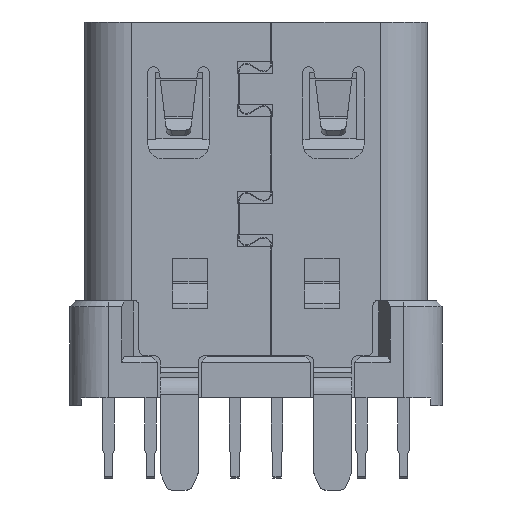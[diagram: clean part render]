
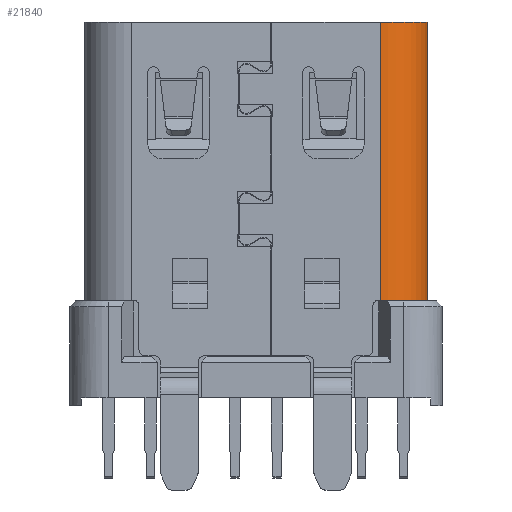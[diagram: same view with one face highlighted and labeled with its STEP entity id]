
A CAD part, front view. The second image highlights one B-rep face of the part: STEP entity #21840.
In plain terms, the highlighted cylindrical face has radius 1.23 mm (diameter 2.46 mm), a partial arc.
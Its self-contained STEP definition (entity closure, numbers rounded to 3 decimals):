
#6180=CARTESIAN_POINT('',(3.24,-0.35,4.75));
#6181=DIRECTION('',(0.,0.,-1.));
#6182=DIRECTION('',(1.,0.,0.));
#6183=AXIS2_PLACEMENT_3D('',#6180,#6181,#6182);
#6189=DIRECTION('',(0.,0.,1.));
#6190=VECTOR('',#6189,7.25);
#6191=CARTESIAN_POINT('',(3.24,-1.58,-2.5));
#6192=LINE('',#6191,#6190);
#6193=DIRECTION('',(0.,0.,-1.));
#6194=VECTOR('',#6193,7.25);
#6195=CARTESIAN_POINT('',(4.47,-0.35,4.75));
#6196=LINE('',#6195,#6194);
#6202=CARTESIAN_POINT('',(3.24,-0.35,-2.5));
#6203=DIRECTION('',(0.,0.,1.));
#6204=DIRECTION('',(0.,-1.,0.));
#6205=AXIS2_PLACEMENT_3D('',#6202,#6203,#6204);
#12370=CARTESIAN_POINT('',(4.47,-0.35,4.75));
#12371=VERTEX_POINT('',#12370);
#12372=CARTESIAN_POINT('',(4.47,-0.35,-2.5));
#12374=VERTEX_POINT('',#12372);
#12763=CARTESIAN_POINT('',(3.24,-1.58,4.75));
#12764=VERTEX_POINT('',#12763);
#12765=CARTESIAN_POINT('',(3.24,-1.58,-2.5));
#12766=VERTEX_POINT('',#12765);
#21827=CARTESIAN_POINT('',(3.24,-0.35,-3.95));
#21828=DIRECTION('',(0.,0.,1.));
#21829=DIRECTION('',(1.,0.,0.));
#21830=AXIS2_PLACEMENT_3D('',#21827,#21828,#21829);
#21831=CYLINDRICAL_SURFACE('',#21830,1.23);
#21833=ORIENTED_EDGE('',*,*,#21832,.F.);
#21835=ORIENTED_EDGE('',*,*,#21834,.T.);
#21836=ORIENTED_EDGE('',*,*,#21820,.F.);
#21837=ORIENTED_EDGE('',*,*,#20994,.T.);
#21838=EDGE_LOOP('',(#21833,#21835,#21836,#21837));
#21839=FACE_OUTER_BOUND('',#21838,.F.);
#21840=ADVANCED_FACE('',(#21839),#21831,.T.);
#6184=CIRCLE('',#6183,1.23);
#6206=CIRCLE('',#6205,1.23);
#20994=EDGE_CURVE('',#12371,#12374,#6196,.T.);
#21820=EDGE_CURVE('',#12371,#12764,#6184,.T.);
#21832=EDGE_CURVE('',#12766,#12374,#6206,.T.);
#21834=EDGE_CURVE('',#12766,#12764,#6192,.T.);
